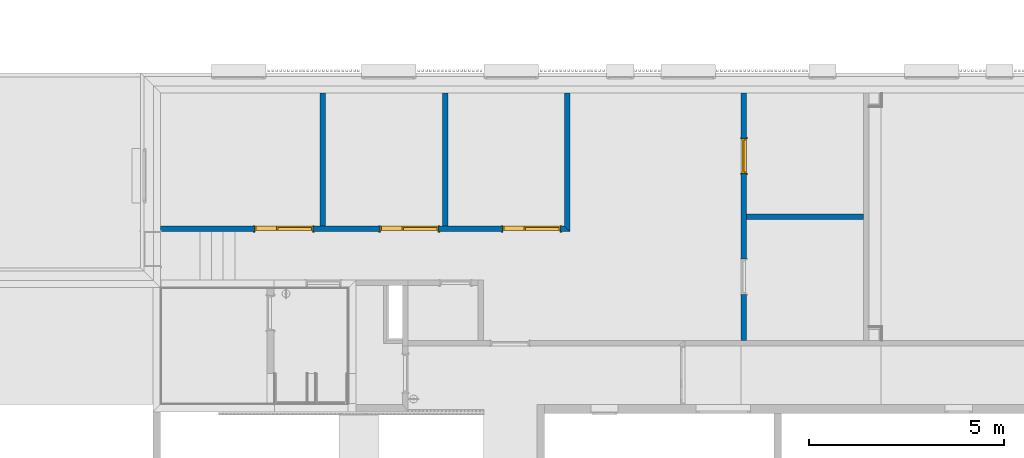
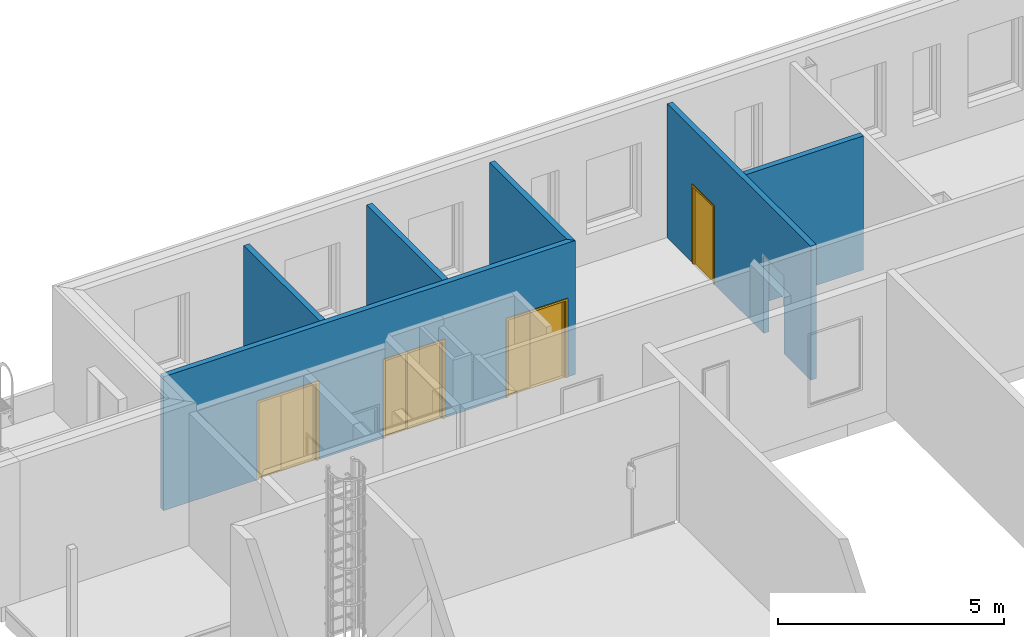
# One storey, part 5 of 100: 6 walls, 4 doors, 5 openings.
"""IFC2X3 building model written with IfcOpenShell, lengths in millimetres."""

import ifcopenshell
import ifcopenshell.guid

model = None  # the IFC model being written
_history = None  # IfcOwnerHistory: only IFC2X3 demands one
_inside = {}  # id of a spatial element -> (the spatial element, [elements in it])
_under = {}  # id of a project, library or spatial element -> (it, [spatial elements below it])
_declared = {}  # id of a project -> (the project, [libraries it declares])
_typed = {}  # id of a type object -> (the type object, [elements of that type])
_made_of = {}  # id of a material, layer set ... -> (it, [elements and type objects made of it])


def new_model(schema):
    """Start an empty IFC model of exactly this schema.

    Asked for "IFC4X3", IfcOpenShell would pick the latest addendum, in which some entities
    have other attributes; the version numbers below select the first issue.
    IFC2X3 requires an IfcOwnerHistory on every rooted entity: one is made here for all.
    """
    global model, _history
    if schema == "IFC4X3":
        model = ifcopenshell.file(schema_version=(4, 3, 0, 0))
    else:
        model = ifcopenshell.file(schema=schema)
    _inside.clear()
    _under.clear()
    _declared.clear()
    _typed.clear()
    _made_of.clear()
    _history = None
    if model.schema == "IFC2X3":
        org = make("IfcOrganization", Name="unknown")
        user = make(
            "IfcPersonAndOrganization",
            ThePerson=make("IfcPerson", FamilyName="unknown"),
            TheOrganization=org,
        )
        app = make(
            "IfcApplication",
            ApplicationDeveloper=org,
            Version="unknown",
            ApplicationFullName="unknown",
            ApplicationIdentifier="unknown",
        )
        _history = make(
            "IfcOwnerHistory",
            OwningUser=user,
            OwningApplication=app,
            ChangeAction="ADDED",
            CreationDate=0,
        )
    return model


def make(cls, **values):
    """One entity of the class cls with the attributes given. An attribute that is None is left unset."""
    return model.create_entity(
        cls, **{name: value for name, value in values.items() if value is not None}
    )


def entity(cls, *values):
    """Any entity or typed value of the class cls, its attributes in the order of the schema. None: left unset."""
    e = model.create_entity(cls)
    for i, value in enumerate(values):
        if value is not None:
            e[i] = value
    return e


def rooted(cls, **values):
    """An entity with a GlobalId (a new one), such as an element, a storey or a relation."""
    return make(cls, GlobalId=ifcopenshell.guid.new(), OwnerHistory=_history, **values)


def si_unit(unit_type, name, prefix=None):
    """IfcSIUnit, for example si_unit("LENGTHUNIT", "METRE", prefix="MILLI")."""
    return make("IfcSIUnit", UnitType=unit_type, Prefix=prefix, Name=name)


def converted_unit(unit_type, name, factor, base, dimensions=None, offset=None):
    """IfcConversionBasedUnit, such as the inch: factor (a typed value) times the base unit."""
    return make(
        "IfcConversionBasedUnit"
        if offset is None
        else "IfcConversionBasedUnitWithOffset",
        ConversionOffset=offset,
        Dimensions=None
        if dimensions is None
        else entity("IfcDimensionalExponents", *dimensions),
        UnitType=unit_type,
        Name=name,
        ConversionFactor=make(
            "IfcMeasureWithUnit", ValueComponent=factor, UnitComponent=base
        ),
    )


def derived_unit(unit_type, elements):
    """IfcDerivedUnit: a product of units, each with its exponent."""
    return make(
        "IfcDerivedUnit",
        Elements=[
            make("IfcDerivedUnitElement", Unit=unit, Exponent=power)
            for unit, power in elements
        ],
        UnitType=unit_type,
    )


def money_unit(currency):
    """IfcMonetaryUnit."""
    return make("IfcMonetaryUnit", Currency=currency)


def assignment(units):
    """IfcUnitAssignment: the units of a project."""
    return None if units is None else make("IfcUnitAssignment", Units=units)


def point(xyz):
    """IfcCartesianPoint."""
    return None if xyz is None else make("IfcCartesianPoint", Coordinates=xyz)


def direction(xyz):
    """IfcDirection."""
    return None if xyz is None else make("IfcDirection", DirectionRatios=xyz)


def frame(location, z_axis=None, x_axis=None):
    """IfcAxis2Placement3D, a coordinate frame: its origin and axes. An axis left out is left unset."""
    return make(
        "IfcAxis2Placement3D",
        Location=point(location),
        Axis=direction(z_axis),
        RefDirection=direction(x_axis),
    )


def frame_2d(location, x_axis=None):
    """IfcAxis2Placement2D, a coordinate frame in the plane: its origin and x axis."""
    return make(
        "IfcAxis2Placement2D", Location=point(location), RefDirection=direction(x_axis)
    )


def origin_with_axes():
    """The frame at (0, 0, 0) with the z axis (0, 0, 1) and the x axis (1, 0, 0) written out."""
    return frame((0.0, 0.0, 0.0), z_axis=(0.0, 0.0, 1.0), x_axis=(1.0, 0.0, 0.0))


def origin_2d_with_axis():
    """The frame at (0, 0) in the plane with the x axis (1, 0) written out."""
    return frame_2d((0.0, 0.0), x_axis=(1.0, 0.0))


def place(relative_to, where):
    """IfcLocalPlacement: puts the frame where relative to a parent placement (None: the world)."""
    return make(
        "IfcLocalPlacement", PlacementRelTo=relative_to, RelativePlacement=where
    )


def context(
    kind, dimensions, precision=None, world=None, true_north=None, identifier=None
):
    """IfcGeometricRepresentationContext, for example the 3D "Model" context."""
    return make(
        "IfcGeometricRepresentationContext",
        ContextIdentifier=identifier,
        ContextType=kind,
        CoordinateSpaceDimension=dimensions,
        Precision=precision,
        WorldCoordinateSystem=world,
        TrueNorth=true_north,
    )


def subcontext(parent, identifier, kind, view, scale=None):
    """IfcGeometricRepresentationSubContext, for example "Body" below "Model"."""
    return make(
        "IfcGeometricRepresentationSubContext",
        ContextIdentifier=identifier,
        ContextType=kind,
        ParentContext=parent,
        TargetScale=scale,
        TargetView=view,
    )


def project(units=None, contexts=None):
    """IfcProject with its units and contexts."""
    return rooted(
        "IfcProject",
        Name="project",
        RepresentationContexts=contexts,
        UnitsInContext=assignment(units),
    )


def spatial(cls, under=None, at=None, **own):
    """A site, building, storey or space (cls), placed at a placement, below another one or the project."""
    s = rooted(cls, ObjectPlacement=at, **own)
    if under is not None:
        _under.setdefault(under.id(), (under, []))[1].append(s)
    return s


def polyline(points):
    """IfcPolyline through the points."""
    return make("IfcPolyline", Points=[point(p) for p in points])


def profile(cls, at=None, kind="AREA", **sizes):
    """A parametric profile (cls). Its sizes go by their IFC names, for example OverallWidth=200.0."""
    return make(cls, ProfileType=kind, Position=at, **sizes)


def rectangle(**sizes):
    """IfcRectangleProfileDef."""
    return profile("IfcRectangleProfileDef", **sizes)


def outline(outer, holes=None, kind="AREA"):
    """IfcArbitraryClosedProfileDef: a profile drawn as a closed curve; with holes, ...WithVoids."""
    if holes is None:
        return make("IfcArbitraryClosedProfileDef", ProfileType=kind, OuterCurve=outer)
    return make(
        "IfcArbitraryProfileDefWithVoids",
        ProfileType=kind,
        OuterCurve=outer,
        InnerCurves=holes,
    )


def extrude(swept, where, along, depth):
    """IfcExtrudedAreaSolid: the profile swept, set in the frame where, extruded along a direction by depth."""
    return make(
        "IfcExtrudedAreaSolid",
        SweptArea=swept,
        Position=where,
        ExtrudedDirection=direction(along),
        Depth=depth,
    )


def faces_of(points, faces, orient=None, outer=None):
    """IfcFace entities. A face is a list of loops; a loop is a list of indices into points, from 0.

    orient and outer hold one flag for each loop. By default every Orientation is true, the
    first loop of a face is its IfcFaceOuterBound and the others are IfcFaceBound.
    """
    made = []
    for i, loops in enumerate(faces):
        bounds = []
        for j, loop in enumerate(loops):
            is_outer = j == 0 if outer is None else outer[i][j]
            bounds.append(
                make(
                    "IfcFaceOuterBound" if is_outer else "IfcFaceBound",
                    Bound=make("IfcPolyLoop", Polygon=[points[k] for k in loop]),
                    Orientation=True if orient is None else orient[i][j],
                )
            )
        made.append(make("IfcFace", Bounds=bounds))
    return made


def open_shell(faces, orient=None, outer=None):
    """The faces of one IfcOpenShell. surface_model builds it on its shared points."""
    return ("IfcOpenShell", faces, orient, outer)


def faceted_brep(points, faces, orient=None, outer=None, voids=None):
    """IfcFacetedBrep: a solid bounded by flat faces; with voids (closed shells), ...WithVoids."""
    shared = [point(p) for p in points]
    hull = make("IfcClosedShell", CfsFaces=faces_of(shared, faces, orient, outer))
    if voids is None:
        return make("IfcFacetedBrep", Outer=hull)
    return make(
        "IfcFacetedBrepWithVoids",
        Outer=hull,
        Voids=[
            make(cls, CfsFaces=faces_of(shared, fs, o, b)) for cls, fs, o, b in voids
        ],
    )


def surface_model(cls, points, shells):
    """IfcFaceBasedSurfaceModel or IfcShellBasedSurfaceModel (cls): surfaces that need not close."""
    shared = [point(p) for p in points]
    made = [make(c, CfsFaces=faces_of(shared, fs, o, b)) for c, fs, o, b in shells]
    if cls == "IfcFaceBasedSurfaceModel":
        return make(cls, FbsmFaces=made)
    return make(cls, SbsmBoundary=made)


def shape(context_of_items, identifier, shape_type, items):
    """IfcShapeRepresentation: the items that make up one representation, for example the "Body"."""
    return make(
        "IfcShapeRepresentation",
        ContextOfItems=context_of_items,
        RepresentationIdentifier=identifier,
        RepresentationType=shape_type,
        Items=items,
    )


def source(mapping_origin, context_of_items, identifier, shape_type, items):
    """IfcRepresentationMap: a shape defined once, which mapped items show again and again."""
    return make(
        "IfcRepresentationMap",
        MappingOrigin=mapping_origin,
        MappedRepresentation=shape(context_of_items, identifier, shape_type, items),
    )


def transform(
    local_origin,
    x_axis=None,
    y_axis=None,
    z_axis=None,
    scale=None,
    scale2=None,
    scale3=None,
    uniform=True,
):
    """IfcCartesianTransformationOperator3D, or its non-uniform kind. x_axis, y_axis, z_axis: its Axis1, 2, 3."""
    if uniform:
        return make(
            "IfcCartesianTransformationOperator3D",
            Axis1=direction(x_axis),
            Axis2=direction(y_axis),
            LocalOrigin=point(local_origin),
            Scale=scale,
            Axis3=direction(z_axis),
        )
    return make(
        "IfcCartesianTransformationOperator3DnonUniform",
        Axis1=direction(x_axis),
        Axis2=direction(y_axis),
        LocalOrigin=point(local_origin),
        Scale=scale,
        Axis3=direction(z_axis),
        Scale2=scale2,
        Scale3=scale3,
    )


def mapped(mapping_source, mapping_target):
    """IfcMappedItem: shows the shape of a source again, moved by a transform."""
    return make(
        "IfcMappedItem", MappingSource=mapping_source, MappingTarget=mapping_target
    )


def material(Name=None, Category=None):
    """IfcMaterial."""
    return make("IfcMaterial", Name=Name, Category=Category)


def layer(
    of_material, thickness, ventilated=None, Name=None, Category=None, Priority=None
):
    """IfcMaterialLayer: one layer of a wall or slab, of a material (None: an air gap)."""
    return make(
        "IfcMaterialLayer",
        Material=of_material,
        LayerThickness=thickness,
        IsVentilated=ventilated,
        Name=Name,
        Category=Category,
        Priority=Priority,
    )


def layer_set(layers, Name=None):
    """IfcMaterialLayerSet."""
    return make("IfcMaterialLayerSet", MaterialLayers=layers, LayerSetName=Name)


def layer_usage(for_layer_set, set_direction, sense, offset, extent=None):
    """IfcMaterialLayerSetUsage: how a layer set lies in its element."""
    return make(
        "IfcMaterialLayerSetUsage",
        ForLayerSet=for_layer_set,
        LayerSetDirection=set_direction,
        DirectionSense=sense,
        OffsetFromReferenceLine=offset,
        ReferenceExtent=extent,
    )


def made_of(thing, what):
    """Note that an element or type object is made of a material, layer set ...; save() writes the relation."""
    if what is not None:
        _made_of.setdefault(what.id(), (what, []))[1].append(thing)
    return thing


def type_object(cls, material=None, **own):
    """A type object (cls), such as IfcWallType, which elements share."""
    return made_of(rooted(cls, **own), material)


def element(
    cls,
    number,
    at=None,
    inside=None,
    cuts=None,
    type_object=None,
    material=None,
    context=None,
    identifier="Body",
    shape_type=None,
    held_by="IfcProductDefinitionShape",
    body=None,
    shapes=None,
    **own,
):
    """One element of the class cls, such as IfcWall. Its Tag is "e" and its number.

    at: its placement. inside: the storey or other place that contains it. cuts: it is an
    opening in that element (IfcRelVoidsElement). A single representation is given by context,
    identifier, shape_type and body (its items); several are given by shapes. held_by: the class
    of the entity that holds the representations. save() writes the other relations.
    """
    e = rooted(cls, Tag="e%d" % number, ObjectPlacement=at, **own)
    if body is not None:
        shapes = [shape(context, identifier, shape_type, body)]
    if shapes is not None:
        e.Representation = make(held_by, Representations=shapes)
    if inside is not None:
        _inside.setdefault(inside.id(), (inside, []))[1].append(e)
    if cuts is not None:
        rooted(
            "IfcRelVoidsElement", RelatingBuildingElement=cuts, RelatedOpeningElement=e
        )
    if type_object is not None:
        _typed.setdefault(type_object.id(), (type_object, []))[1].append(e)
    return made_of(e, material)


def fill(opening, filler):
    """IfcRelFillsElement: the door or window that sits in an opening."""
    return rooted(
        "IfcRelFillsElement",
        RelatingOpeningElement=opening,
        RelatedBuildingElement=filler,
    )


def aggregate(whole, parts):
    """IfcRelAggregates: a whole, such as a stair, and the parts it consists of."""
    return rooted("IfcRelAggregates", RelatingObject=whole, RelatedObjects=parts)


def save(model, path):
    """Write the relations noted so far, then the file.

    IfcRelAggregates (storeys below a building ...), IfcRelContainedInSpatialStructure (elements
    in a storey), IfcRelDefinesByType, IfcRelAssociatesMaterial and IfcRelDeclares: one each for
    every whole, place, type object, material and project.
    """
    for whole, parts in _under.values():
        aggregate(whole, parts)
    for where, things in _inside.values():
        rooted(
            "IfcRelContainedInSpatialStructure",
            RelatedElements=things,
            RelatingStructure=where,
        )
    for kind, things in _typed.values():
        rooted("IfcRelDefinesByType", RelatedObjects=things, RelatingType=kind)
    for what, things in _made_of.values():
        rooted("IfcRelAssociatesMaterial", RelatedObjects=things, RelatingMaterial=what)
    for by, libraries in _declared.values():
        rooted("IfcRelDeclares", RelatingContext=by, RelatedDefinitions=libraries)
    model.write(path)


model = new_model("IFC2X3")

# Units and contexts
model_context = context("Model", 3, precision=0.01, world=origin_with_axes(), true_north=direction((0.0, 1.0)))
body_context = subcontext(model_context, "Body", "Model", "MODEL_VIEW")
ifc_project = project(units=[si_unit("LENGTHUNIT", "METRE", prefix="MILLI"), si_unit("AREAUNIT", "SQUARE_METRE"), si_unit("VOLUMEUNIT", "CUBIC_METRE"), converted_unit("PLANEANGLEUNIT", "DEGREE", entity("IfcPlaneAngleMeasure", 0.0174532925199), si_unit("PLANEANGLEUNIT", "RADIAN"), dimensions=[0, 0, 0, 0, 0, 0, 0]), si_unit("SOLIDANGLEUNIT", "STERADIAN"), money_unit("EUR"), converted_unit("TIMEUNIT", "Year", entity("IfcTimeMeasure", 31556926.0), si_unit("TIMEUNIT", "SECOND"), dimensions=[0, 0, 1, 0, 0, 0, 0]), si_unit("MASSUNIT", "GRAM", prefix="KILO"), si_unit("THERMODYNAMICTEMPERATUREUNIT", "DEGREE_CELSIUS"), si_unit("LUMINOUSINTENSITYUNIT", "LUMEN"), si_unit("ENERGYUNIT", "JOULE", prefix="MEGA"), derived_unit("THERMALCONDUCTANCEUNIT", [(si_unit("POWERUNIT", "WATT"), 1), (si_unit("LENGTHUNIT", "METRE"), -1), (si_unit("THERMODYNAMICTEMPERATUREUNIT", "KELVIN"), -1)]), derived_unit("SPECIFICHEATCAPACITYUNIT", [(si_unit("ENERGYUNIT", "JOULE"), 1), (si_unit("MASSUNIT", "GRAM", prefix="KILO"), -1), (si_unit("THERMODYNAMICTEMPERATUREUNIT", "KELVIN"), -1)]), derived_unit("MASSDENSITYUNIT", [(si_unit("MASSUNIT", "GRAM", prefix="KILO"), 1), (si_unit("VOLUMEUNIT", "CUBIC_METRE"), -1)])], contexts=[model_context])

# Site, building, storey
site_placement = place(None, origin_with_axes())
site = spatial("IfcSite", under=ifc_project, at=site_placement, Name="Politse- ja Piirivalveameti ning Päästeameti ühishoone", CompositionType="ELEMENT")
building_placement = place(site_placement, origin_with_axes())
building = spatial("IfcBuilding", under=site, at=building_placement, Name="Politse- ja Piirivalveameti ning Päästeameti ühishoone", CompositionType="ELEMENT")
storey_placement = place(building_placement, frame((0.0, 0.0, 3800.0), z_axis=(0.0, 0.0, 1.0), x_axis=(1.0, 0.0, 0.0)))
storey = spatial("IfcBuildingStorey", under=building, at=storey_placement, Name="Teine korrus", CompositionType="ELEMENT", Elevation=3800.0)

# Walls
ifc_material = material(Name="KON-05_Betoon Plokk - Konstuktsioon")
ifc_layer = layer(ifc_material, 140.0, ventilated="UNKNOWN")
ifc_layer_set = layer_set([ifc_layer], Name="SS-02_Sisesein 140")
ifc_layer_usage_1 = layer_usage(ifc_layer_set, "AXIS2", "NEGATIVE", 0.0)
wall_type = type_object("IfcWallType", Name="SS-02_Sisesein 140 140", PredefinedType="NOTDEFINED")
wall_1_placement = place(storey_placement, frame((27419.6423616, 20999.9524789, 0.0), z_axis=(0.0, 0.0, 1.0), x_axis=(0.0, -1.0, 0.0)))
element("IfcWallStandardCase", 1, at=wall_1_placement, inside=storey, type_object=wall_type, material=ifc_layer_usage_1, Name="SS-02", context=body_context, shape_type="SweptSolid", body=[
    extrude(outline(polyline([(-2.78368972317e-06, -140.0), (3419.92803441, -140.0), (3559.92803441, 0.0), (-8.15770562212e-06, 0.0), (-2.78368972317e-06, -140.0)])), origin_with_axes(), (0.0, 0.0, 1.0), 3620.0),
])
ifc_layer_usage_2 = layer_usage(ifc_layer_set, "AXIS2", "POSITIVE", 0.0)
wall_2_placement = place(storey_placement, frame((20999.9238124, 20999.9522311, 0.0), z_axis=(0.0, 0.0, 1.0), x_axis=(0.0, -1.0, 0.0)))
element("IfcWallStandardCase", 2, at=wall_2_placement, inside=storey, type_object=wall_type, material=ifc_layer_usage_2, Name="SS-02", context=body_context, shape_type="SweptSolid", body=[
    extrude(outline(polyline([(-9.50311829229e-06, 0.0), (3419.92778664, 0.0), (3419.92778664, 140.0), (-1.48771270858e-05, 140.0), (-9.50311829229e-06, 0.0)])), origin_with_axes(), (0.0, 0.0, 1.0), 3575.0),
])
ifc_layer_usage_3 = layer_usage(ifc_layer_set, "AXIS2", "POSITIVE", 0.0)
wall_3_placement = place(storey_placement, frame((24139.6423616, 20999.9523718, 0.0), z_axis=(0.0, 0.0, 1.0), x_axis=(0.0, -1.0, 0.0)))
element("IfcWallStandardCase", 3, at=wall_3_placement, inside=storey, type_object=wall_type, material=ifc_layer_usage_3, Name="SS-02", context=body_context, shape_type="SweptSolid", body=[
    extrude(outline(polyline([(1.06572102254e-05, 0.0), (3419.92792732, 0.0), (3419.92792732, 140.0), (5.28320143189e-06, 140.0), (1.06572102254e-05, 0.0)])), origin_with_axes(), (0.0, 0.0, 1.0), 3575.0),
])

# Wall, openings, doors
ifc_layer_usage_4 = layer_usage(ifc_layer_set, "AXIS2", "POSITIVE", 0.0)
wall_4_placement = place(storey_placement, frame((16900.2058065, 17440.0244444, 0.0), z_axis=(0.0, 0.0, 1.0), x_axis=(1.0, 0.0, 0.0)))
wall_4 = element("IfcWallStandardCase", 4, at=wall_4_placement, inside=storey, type_object=wall_type, material=ifc_layer_usage_4, Name="SS-02", context=body_context, shape_type="SweptSolid", body=[
    extrude(outline(polyline([(-0.0040000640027, 0.0), (10519.436555, 0.0), (10379.436555, 140.0), (-0.00960015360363, 140.0), (-0.0040000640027, 0.0)])), origin_with_axes(), (0.0, 0.0, 1.0), 3620.0),
])
opening_1_placement = place(wall_4_placement, frame((9529.77600472, 0.0, 0.0), z_axis=(0.0, 0.0, 1.0), x_axis=(1.0, 0.0, 0.0)))
opening_1 = element("IfcOpeningElement", 5, at=opening_1_placement, cuts=wall_4, Name="SU-02-5", context=body_context, shape_type="SweptSolid", body=[
    extrude(rectangle(XDim=1500.0, YDim=2100.0, at=origin_2d_with_axis()), frame((0.0, -140.0, 1050.0), z_axis=(0.0, 1.0, 0.0), x_axis=(1.0, 0.0, 0.0)), (0.0, 0.0, 1.0), 420.0),
    extrude(rectangle(XDim=1574.0, YDim=2137.0, at=origin_2d_with_axis()), frame((0.0, 0.0, 1068.5), z_axis=(0.0, 1.0, 0.0), x_axis=(1.0, 0.0, 0.0)), (0.0, 0.0, -1.0), 140.0),
    extrude(rectangle(XDim=1574.0, YDim=2137.0, at=origin_2d_with_axis()), frame((0.0, 140.0, 1068.5), z_axis=(0.0, -1.0, 0.0), x_axis=(1.0, 0.0, 0.0)), (0.0, 0.0, -1.0), 140.0),
])
opening_2_placement = place(wall_4_placement, frame((6389.43655502, 0.0, 0.0), z_axis=(0.0, 0.0, 1.0), x_axis=(1.0, 0.0, 0.0)))
opening_2 = element("IfcOpeningElement", 6, at=opening_2_placement, cuts=wall_4, Name="SU-02-5", context=body_context, shape_type="SweptSolid", body=[
    extrude(rectangle(XDim=1500.0, YDim=2100.0, at=origin_2d_with_axis()), frame((0.0, -140.0, 1050.0), z_axis=(0.0, 1.0, 0.0), x_axis=(1.0, 0.0, 0.0)), (0.0, 0.0, 1.0), 420.0),
    extrude(rectangle(XDim=1574.0, YDim=2137.0, at=origin_2d_with_axis()), frame((0.0, 0.0, 1068.5), z_axis=(0.0, 1.0, 0.0), x_axis=(1.0, 0.0, 0.0)), (0.0, 0.0, -1.0), 140.0),
    extrude(rectangle(XDim=1574.0, YDim=2137.0, at=origin_2d_with_axis()), frame((0.0, 140.0, 1068.5), z_axis=(0.0, -1.0, 0.0), x_axis=(1.0, 0.0, 0.0)), (0.0, 0.0, -1.0), 140.0),
])
opening_3_placement = place(wall_4_placement, frame((3164.71800587, 0.0, 0.0), z_axis=(0.0, 0.0, 1.0), x_axis=(1.0, 0.0, 0.0)))
opening_3 = element("IfcOpeningElement", 7, at=opening_3_placement, cuts=wall_4, Name="SU-02-5", context=body_context, shape_type="SweptSolid", body=[
    extrude(rectangle(XDim=1500.0, YDim=2100.0, at=origin_2d_with_axis()), frame((0.0, -140.0, 1050.0), z_axis=(0.0, 1.0, 0.0), x_axis=(1.0, 0.0, 0.0)), (0.0, 0.0, 1.0), 420.0),
    extrude(rectangle(XDim=1574.0, YDim=2137.0, at=origin_2d_with_axis()), frame((0.0, 0.0, 1068.5), z_axis=(0.0, 1.0, 0.0), x_axis=(1.0, 0.0, 0.0)), (0.0, 0.0, -1.0), 140.0),
    extrude(rectangle(XDim=1574.0, YDim=2137.0, at=origin_2d_with_axis()), frame((0.0, 140.0, 1068.5), z_axis=(0.0, -1.0, 0.0), x_axis=(1.0, 0.0, 0.0)), (0.0, 0.0, -1.0), 140.0),
])
door_style_1 = type_object("IfcDoorStyle", Name="Door with Sidelight on Side 2 23", ConstructionType="NOTDEFINED", OperationType="NOTDEFINED", ParameterTakesPrecedence=False, Sizeable=False)
shared_shape_1 = source(origin_with_axes(), body_context, "Body", "SurfaceModel", [
    faceted_brep([(722.0, -40.0, 0.0), (722.0, -40.0, 12.0), (710.0, -40.0, 12.0), (710.0, -40.0, 0.0), (-162.0, -40.0, 0.0), (-162.0, -40.0, 12.0), (-150.0, -40.0, 12.0), (-150.0, -115.0, 12.0), (710.0, -115.0, 12.0), (710.0, -115.0, 0.0), (-150.0, -115.0, 0.0), (-150.0, -40.0, 0.0)], [[[0, 1, 2, 3]], [[4, 5, 1, 0]], [[1, 5, 6, 7, 8, 2]], [[3, 2, 8, 9]], [[0, 3, 9, 10, 11, 4]], [[11, 6, 5, 4]], [[10, 7, 6, 11]], [[9, 8, 7, 10]]]),
    faceted_brep([(-750.0, -115.0, 0.0), (-725.0, -115.0, 0.0), (-725.0, -140.0, 0.0), (-750.0, -140.0, 0.0), (-750.0, -115.0, 2100.0), (-725.0, -115.0, 2075.0), (-725.0, -140.0, 2075.0), (-750.0, -140.0, 2100.0)], [[[0, 1, 2, 3]], [[0, 4, 5, 1]], [[1, 5, 6, 2]], [[3, 2, 6, 7]], [[4, 0, 3, 7]], [[5, 4, 7, 6]]]),
    faceted_brep([(750.0, -115.0, 2100.0), (725.0, -115.0, 2075.0), (725.0, -140.0, 2075.0), (750.0, -140.0, 2100.0), (750.0, -115.0, 0.0), (725.0, -115.0, 0.0), (725.0, -140.0, 0.0), (750.0, -140.0, 0.0)], [[[0, 1, 2, 3]], [[0, 4, 5, 1]], [[1, 5, 6, 2]], [[3, 2, 6, 7]], [[4, 0, 3, 7]], [[5, 4, 7, 6]]]),
    faceted_brep([(-725.0, -115.0, 2075.0), (725.0, -115.0, 2075.0), (725.0, -140.0, 2075.0), (-725.0, -140.0, 2075.0), (-750.0, -115.0, 2100.0), (750.0, -115.0, 2100.0), (750.0, -140.0, 2100.0), (-750.0, -140.0, 2100.0)], [[[0, 1, 2, 3]], [[0, 4, 5, 1]], [[1, 5, 6, 2]], [[3, 2, 6, 7]], [[4, 0, 3, 7]], [[5, 4, 7, 6]]]),
    faceted_brep([(-787.0, -159.0, 0.0), (-787.0, -140.0, 0.0), (-737.0, -140.0, 0.0), (-737.0, -159.0, 0.0), (-787.0, -159.0, 2137.0), (-787.0, -140.0, 2137.0), (-737.0, -140.0, 2087.0), (-737.0, -159.0, 2087.0)], [[[0, 1, 2, 3]], [[4, 5, 1, 0]], [[1, 5, 6, 2]], [[3, 2, 6, 7]], [[0, 3, 7, 4]], [[7, 6, 5, 4]]]),
    faceted_brep([(787.0, -159.0, 2137.0), (787.0, -140.0, 2137.0), (737.0, -140.0, 2087.0), (737.0, -159.0, 2087.0), (787.0, -159.0, 0.0), (787.0, -140.0, 0.0), (737.0, -140.0, 0.0), (737.0, -159.0, 0.0)], [[[0, 1, 2, 3]], [[4, 5, 1, 0]], [[1, 5, 6, 2]], [[3, 2, 6, 7]], [[0, 3, 7, 4]], [[7, 6, 5, 4]]]),
    faceted_brep([(-787.0, -159.0, 2137.0), (-787.0, -140.0, 2137.0), (-737.0, -140.0, 2087.0), (-737.0, -159.0, 2087.0), (787.0, -159.0, 2137.0), (787.0, -140.0, 2137.0), (737.0, -140.0, 2087.0), (737.0, -159.0, 2087.0)], [[[0, 1, 2, 3]], [[4, 5, 1, 0]], [[1, 5, 6, 2]], [[3, 2, 6, 7]], [[0, 3, 7, 4]], [[7, 6, 5, 4]]]),
    faceted_brep([(-787.0, 19.0, 0.0), (-737.0, 19.0, 0.0), (-737.0, 0.0, 0.0), (-787.0, 0.0, 0.0), (-787.0, 19.0, 2137.0), (-737.0, 19.0, 2087.0), (-737.0, 0.0, 2087.0), (-787.0, 0.0, 2137.0)], [[[0, 1, 2, 3]], [[0, 4, 5, 1]], [[1, 5, 6, 2]], [[3, 2, 6, 7]], [[4, 0, 3, 7]], [[5, 4, 7, 6]]]),
    faceted_brep([(787.0, 19.0, 2137.0), (737.0, 19.0, 2087.0), (737.0, 0.0, 2087.0), (787.0, 0.0, 2137.0), (787.0, 19.0, 0.0), (737.0, 19.0, 0.0), (737.0, 0.0, 0.0), (787.0, 0.0, 0.0)], [[[0, 1, 2, 3]], [[0, 4, 5, 1]], [[1, 5, 6, 2]], [[3, 2, 6, 7]], [[4, 0, 3, 7]], [[5, 4, 7, 6]]]),
    faceted_brep([(-787.0, 19.0, 2137.0), (-737.0, 19.0, 2087.0), (-737.0, 0.0, 2087.0), (-787.0, 0.0, 2137.0), (787.0, 19.0, 2137.0), (737.0, 19.0, 2087.0), (737.0, 0.0, 2087.0), (787.0, 0.0, 2137.0)], [[[0, 1, 2, 3]], [[0, 4, 5, 1]], [[1, 5, 6, 2]], [[3, 2, 6, 7]], [[4, 0, 3, 7]], [[5, 4, 7, 6]]]),
    faceted_brep([(-750.0, 0.0, 0.0), (-710.0, 0.0, 0.0), (-710.0, -115.0, 0.0), (-750.0, -115.0, 0.0), (-750.0, 0.0, 2060.0), (-710.0, 0.0, 2060.0), (-710.0, 0.0, 40.0), (-710.0, -115.0, 40.0), (-710.0, -115.0, 2060.0), (-750.0, -115.0, 2060.0)], [[[0, 1, 2, 3]], [[0, 4, 5, 6, 1]], [[1, 6, 7, 2]], [[3, 2, 7, 8, 9]], [[4, 0, 3, 9]], [[5, 4, 9, 8]], [[6, 5, 8, 7]]]),
    faceted_brep([(-150.0, -40.0, 0.0), (-150.0, -40.0, 2060.0), (-150.0, -115.0, 2060.0), (-150.0, -115.0, 0.0), (-162.0, -40.0, 2060.0), (-162.0, -40.0, 0.0), (-162.0, 0.0, 2060.0), (-190.0, 0.0, 2060.0), (-190.0, -115.0, 2060.0), (-190.0, -115.0, 0.0), (-190.0, -115.0, 40.0), (-190.0, 0.0, 0.0), (-162.0, 0.0, 0.0), (-190.0, 0.0, 40.0)], [[[0, 1, 2, 3]], [[4, 1, 0, 5]], [[4, 6, 7, 8, 2, 1]], [[9, 3, 2, 8, 10]], [[5, 0, 3, 9, 11, 12]], [[6, 4, 5, 12]], [[6, 12, 11, 13, 7]], [[13, 10, 8, 7]], [[11, 9, 10, 13]]]),
    faceted_brep([(-710.0, 0.0, 40.0), (-710.0, 0.0, 0.0), (-710.0, -115.0, 0.0), (-710.0, -115.0, 40.0), (-190.0, 0.0, 40.0), (-190.0, 0.0, 0.0), (-190.0, -115.0, 0.0), (-190.0, -115.0, 40.0)], [[[0, 1, 2, 3]], [[0, 4, 5, 1]], [[1, 5, 6, 2]], [[3, 2, 6, 7]], [[4, 0, 3, 7]], [[5, 4, 7, 6]]]),
    faceted_brep([(722.0, -40.0, 2060.0), (710.0, -40.0, 2060.0), (710.0, -115.0, 2060.0), (750.0, -115.0, 2060.0), (750.0, 0.0, 2060.0), (722.0, 0.0, 2060.0), (722.0, -40.0, 0.0), (710.0, -40.0, 0.0), (710.0, -115.0, 0.0), (750.0, -115.0, 0.0), (750.0, 0.0, 0.0), (722.0, 0.0, 0.0)], [[[0, 1, 2, 3, 4, 5]], [[1, 0, 6, 7]], [[1, 7, 8, 2]], [[3, 2, 8, 9]], [[4, 3, 9, 10]], [[11, 5, 4, 10]], [[0, 5, 11, 6]], [[6, 11, 10, 9, 8, 7]]]),
    faceted_brep([(-162.0, 0.0, 2072.0), (-162.0, 0.0, 2060.0), (-190.0, 0.0, 2060.0), (-710.0, 0.0, 2060.0), (-750.0, 0.0, 2060.0), (-750.0, 0.0, 2100.0), (750.0, 0.0, 2100.0), (750.0, 0.0, 2060.0), (722.0, 0.0, 2060.0), (722.0, 0.0, 2072.0), (-162.0, -40.0, 2072.0), (-162.0, -40.0, 2060.0), (710.0, -40.0, 2060.0), (710.0, -115.0, 2060.0), (-150.0, -115.0, 2060.0), (-190.0, -115.0, 2060.0), (-710.0, -115.0, 2060.0), (-750.0, -115.0, 2060.0), (-750.0, -115.0, 2100.0), (750.0, -115.0, 2100.0), (750.0, -115.0, 2060.0), (722.0, -40.0, 2060.0), (722.0, -40.0, 2072.0)], [[[0, 1, 2, 3, 4, 5, 6, 7, 8, 9]], [[1, 0, 10, 11]], [[11, 12, 13, 14, 15, 2, 1]], [[2, 15, 16, 3]], [[3, 16, 17, 4]], [[4, 17, 18, 5]], [[5, 18, 19, 6]], [[6, 19, 20, 7]], [[21, 8, 7, 20, 13, 12]], [[9, 8, 21, 22]], [[0, 9, 22, 10]], [[21, 12, 11, 10, 22]], [[13, 20, 19, 18, 17, 16, 15, 14]]]),
    faceted_brep([(722.0, 0.0, 0.0), (722.0, -40.0, 0.0), (-162.0, -40.0, 0.0), (-162.0, 0.0, 0.0), (722.0, 0.0, 2072.0), (722.0, -40.0, 2072.0), (-162.0, -40.0, 2072.0), (-162.0, 0.0, 2072.0)], [[[0, 1, 2, 3]], [[4, 5, 1, 0]], [[1, 5, 6, 2]], [[3, 2, 6, 7]], [[0, 3, 7, 4]], [[7, 6, 5, 4]]]),
    surface_model("IfcShellBasedSurfaceModel", [(-710.0, -91.0, 40.0), (-710.0, -91.0, 2060.0), (-190.0, -91.0, 2060.0), (-190.0, -91.0, 40.0)], [open_shell([[[0, 1, 2, 3]]])]),
    surface_model("IfcShellBasedSurfaceModel", [(-710.0, -103.0, 40.0), (-190.0, -103.0, 40.0), (-190.0, -103.0, 2060.0), (-710.0, -103.0, 2060.0)], [open_shell([[[0, 1, 2, 3]]])]),
])
door_1_placement = place(opening_1_placement, frame((-750.0, 0.0, 0.0), z_axis=(0.0, 0.0, 1.0), x_axis=(1.0, 0.0, 0.0)))
door_1 = element("IfcDoor", 8, at=door_1_placement, inside=storey, type_object=door_style_1, Name="SU-02-5", ObjectType="DOOR", OverallHeight=2100.0, OverallWidth=1500.0, context=body_context, shape_type="MappedRepresentation", body=[
    mapped(shared_shape_1, transform((750.0, 140.0, 0.0))),
])
fill(opening_1, door_1)
door_2_placement = place(opening_2_placement, frame((-750.0, 0.0, 0.0), z_axis=(0.0, 0.0, 1.0), x_axis=(1.0, 0.0, 0.0)))
door_2 = element("IfcDoor", 9, at=door_2_placement, inside=storey, type_object=door_style_1, Name="SU-02-5", ObjectType="DOOR", OverallHeight=2100.0, OverallWidth=1500.0, context=body_context, shape_type="MappedRepresentation", body=[
    mapped(shared_shape_1, transform((750.0, 140.0, 0.0))),
])
fill(opening_2, door_2)
door_3_placement = place(opening_3_placement, frame((-750.0, 0.0, 0.0), z_axis=(0.0, 0.0, 1.0), x_axis=(1.0, 0.0, 0.0)))
door_3 = element("IfcDoor", 10, at=door_3_placement, inside=storey, type_object=door_style_1, Name="SU-02-5", ObjectType="DOOR", OverallHeight=2100.0, OverallWidth=1500.0, context=body_context, shape_type="MappedRepresentation", body=[
    mapped(shared_shape_1, transform((750.0, 140.0, 0.0))),
])
fill(opening_3, door_3)

# Wall, openings, door
ifc_layer_usage_5 = layer_usage(ifc_layer_set, "AXIS2", "NEGATIVE", 0.0)
wall_5_placement = place(storey_placement, frame((31959.7100495, 20999.9525809, 0.0), z_axis=(0.0, 0.0, 1.0), x_axis=(0.0, -1.0, 0.0)))
wall_5 = element("IfcWallStandardCase", 11, at=wall_5_placement, inside=storey, type_object=wall_type, material=ifc_layer_usage_5, Name="SS-02", context=body_context, shape_type="SweptSolid", body=[
    extrude(outline(polyline([(-7.49983968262e-05, -140.0), (6359.91042811, -140.0), (6359.91042811, 0.0), (-8.03724056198e-05, 0.0), (-7.49983968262e-05, -140.0)])), origin_with_axes(), (0.0, 0.0, 1.0), 3620.0),
])
opening_4_placement = place(wall_5_placement, frame((1620.43760814, 0.0, 0.0), z_axis=(0.0, 0.0, 1.0), x_axis=(1.0, 0.0, 0.0)))
opening_4 = element("IfcOpeningElement", 12, at=opening_4_placement, cuts=wall_5, Name="SU-02-2", context=body_context, shape_type="SweptSolid", body=[
    extrude(rectangle(XDim=900.0, YDim=2100.0, at=origin_2d_with_axis()), frame((0.0, -140.0, 1050.0), z_axis=(0.0, 1.0, 0.0), x_axis=(-1.0, 0.0, 0.0)), (0.0, 0.0, 1.0), 420.0),
    extrude(rectangle(XDim=974.0, YDim=2137.0, at=origin_2d_with_axis()), frame((0.0, -140.0, 1068.5), z_axis=(0.0, 1.0, 0.0), x_axis=(-1.0, 0.0, 0.0)), (0.0, 0.0, -1.0), 140.0),
    extrude(rectangle(XDim=974.0, YDim=2137.0, at=origin_2d_with_axis()), frame((0.0, 0.0, 1068.5), z_axis=(0.0, -1.0, 0.0), x_axis=(-1.0, 0.0, 0.0)), (0.0, 0.0, -1.0), 140.0),
])
opening_5_placement = place(wall_5_placement, frame((4720.46114588, 0.0, 0.0), z_axis=(0.0, 0.0, 1.0), x_axis=(1.0, 0.0, 0.0)))
element("IfcOpeningElement", 13, at=opening_5_placement, cuts=wall_5, Name="SU-02-2", context=body_context, shape_type="SweptSolid", body=[
    extrude(rectangle(XDim=900.0, YDim=2100.0, at=origin_2d_with_axis()), frame((0.0, 140.0, 1050.0), z_axis=(0.0, -1.0, 0.0), x_axis=(-1.0, 0.0, 0.0)), (0.0, 0.0, 1.0), 420.0),
    extrude(rectangle(XDim=974.0, YDim=2137.0, at=origin_2d_with_axis()), frame((0.0, 0.0, 1068.5), z_axis=(0.0, -1.0, 0.0), x_axis=(-1.0, 0.0, 0.0)), (0.0, 0.0, -1.0), 140.0),
    extrude(rectangle(XDim=974.0, YDim=2137.0, at=origin_2d_with_axis()), frame((0.0, -140.0, 1068.5), z_axis=(0.0, 1.0, 0.0), x_axis=(-1.0, 0.0, 0.0)), (0.0, 0.0, -1.0), 140.0),
])
door_style_2 = type_object("IfcDoorStyle", Name="Door 23", ConstructionType="NOTDEFINED", OperationType="SINGLE_SWING_RIGHT", ParameterTakesPrecedence=False, Sizeable=False)
shared_shape_2 = source(origin_with_axes(), body_context, "Body", "Brep", [
    faceted_brep([(410.0, -115.0, 0.0), (410.0, -40.0, 0.0), (410.0, -40.0, 12.0), (410.0, -115.0, 12.0), (-410.0, -115.0, 0.0), (-410.0, -40.0, 0.0), (-422.0, -40.0, 0.0), (422.0, -40.0, 0.0), (422.0, -40.0, 12.0), (-422.0, -40.0, 12.0), (-410.0, -40.0, 12.0), (-410.0, -115.0, 12.0)], [[[0, 1, 2, 3]], [[0, 4, 5, 6, 7, 1]], [[1, 7, 8, 2]], [[3, 2, 8, 9, 10, 11]], [[4, 0, 3, 11]], [[5, 4, 11, 10]], [[6, 5, 10, 9]], [[7, 6, 9, 8]]]),
    faceted_brep([(-450.0, 0.0, 0.0), (-450.0, 25.0, 0.0), (-425.0, 25.0, 0.0), (-425.0, 0.0, 0.0), (-450.0, 0.0, 2100.0), (-450.0, 25.0, 2100.0), (-425.0, 25.0, 2075.0), (-425.0, 0.0, 2075.0)], [[[0, 1, 2, 3]], [[4, 5, 1, 0]], [[1, 5, 6, 2]], [[3, 2, 6, 7]], [[0, 3, 7, 4]], [[7, 6, 5, 4]]]),
    faceted_brep([(450.0, 0.0, 2100.0), (450.0, 25.0, 2100.0), (425.0, 25.0, 2075.0), (425.0, 0.0, 2075.0), (450.0, 0.0, 0.0), (450.0, 25.0, 0.0), (425.0, 25.0, 0.0), (425.0, 0.0, 0.0)], [[[0, 1, 2, 3]], [[4, 5, 1, 0]], [[1, 5, 6, 2]], [[3, 2, 6, 7]], [[0, 3, 7, 4]], [[7, 6, 5, 4]]]),
    faceted_brep([(-425.0, 0.0, 2075.0), (-425.0, 25.0, 2075.0), (425.0, 25.0, 2075.0), (425.0, 0.0, 2075.0), (-450.0, 0.0, 2100.0), (-450.0, 25.0, 2100.0), (450.0, 25.0, 2100.0), (450.0, 0.0, 2100.0)], [[[0, 1, 2, 3]], [[4, 5, 1, 0]], [[1, 5, 6, 2]], [[3, 2, 6, 7]], [[0, 3, 7, 4]], [[7, 6, 5, 4]]]),
    faceted_brep([(-487.0, 44.0, 0.0), (-437.0, 44.0, 0.0), (-437.0, 25.0, 0.0), (-487.0, 25.0, 0.0), (-487.0, 44.0, 2137.0), (-437.0, 44.0, 2087.0), (-437.0, 25.0, 2087.0), (-487.0, 25.0, 2137.0)], [[[0, 1, 2, 3]], [[0, 4, 5, 1]], [[1, 5, 6, 2]], [[3, 2, 6, 7]], [[4, 0, 3, 7]], [[5, 4, 7, 6]]]),
    faceted_brep([(487.0, 44.0, 2137.0), (437.0, 44.0, 2087.0), (437.0, 25.0, 2087.0), (487.0, 25.0, 2137.0), (487.0, 44.0, 0.0), (437.0, 44.0, 0.0), (437.0, 25.0, 0.0), (487.0, 25.0, 0.0)], [[[0, 1, 2, 3]], [[0, 4, 5, 1]], [[1, 5, 6, 2]], [[3, 2, 6, 7]], [[4, 0, 3, 7]], [[5, 4, 7, 6]]]),
    faceted_brep([(-487.0, 44.0, 2137.0), (-437.0, 44.0, 2087.0), (-437.0, 25.0, 2087.0), (-487.0, 25.0, 2137.0), (487.0, 44.0, 2137.0), (437.0, 44.0, 2087.0), (437.0, 25.0, 2087.0), (487.0, 25.0, 2137.0)], [[[0, 1, 2, 3]], [[0, 4, 5, 1]], [[1, 5, 6, 2]], [[3, 2, 6, 7]], [[4, 0, 3, 7]], [[5, 4, 7, 6]]]),
    faceted_brep([(-487.0, -134.0, 0.0), (-487.0, -115.0, 0.0), (-437.0, -115.0, 0.0), (-437.0, -134.0, 0.0), (-487.0, -134.0, 2137.0), (-487.0, -115.0, 2137.0), (-437.0, -115.0, 2087.0), (-437.0, -134.0, 2087.0)], [[[0, 1, 2, 3]], [[4, 5, 1, 0]], [[1, 5, 6, 2]], [[3, 2, 6, 7]], [[0, 3, 7, 4]], [[7, 6, 5, 4]]]),
    faceted_brep([(487.0, -134.0, 2137.0), (487.0, -115.0, 2137.0), (437.0, -115.0, 2087.0), (437.0, -134.0, 2087.0), (487.0, -134.0, 0.0), (487.0, -115.0, 0.0), (437.0, -115.0, 0.0), (437.0, -134.0, 0.0)], [[[0, 1, 2, 3]], [[4, 5, 1, 0]], [[1, 5, 6, 2]], [[3, 2, 6, 7]], [[0, 3, 7, 4]], [[7, 6, 5, 4]]]),
    faceted_brep([(-487.0, -134.0, 2137.0), (-487.0, -115.0, 2137.0), (-437.0, -115.0, 2087.0), (-437.0, -134.0, 2087.0), (487.0, -134.0, 2137.0), (487.0, -115.0, 2137.0), (437.0, -115.0, 2087.0), (437.0, -134.0, 2087.0)], [[[0, 1, 2, 3]], [[4, 5, 1, 0]], [[1, 5, 6, 2]], [[3, 2, 6, 7]], [[0, 3, 7, 4]], [[7, 6, 5, 4]]]),
    faceted_brep([(-410.0, -40.0, 0.0), (-410.0, -40.0, 2060.0), (-410.0, -115.0, 2060.0), (-410.0, -115.0, 0.0), (-422.0, -40.0, 2060.0), (-422.0, -40.0, 0.0), (-422.0, 0.0, 2060.0), (-450.0, 0.0, 2060.0), (-450.0, -115.0, 2060.0), (-450.0, -115.0, 0.0), (-450.0, 0.0, 0.0), (-422.0, 0.0, 0.0)], [[[0, 1, 2, 3]], [[4, 1, 0, 5]], [[4, 6, 7, 8, 2, 1]], [[3, 2, 8, 9]], [[5, 0, 3, 9, 10, 11]], [[6, 4, 5, 11]], [[6, 11, 10, 7]], [[10, 9, 8, 7]]]),
    faceted_brep([(422.0, -40.0, 2060.0), (410.0, -40.0, 2060.0), (410.0, -115.0, 2060.0), (450.0, -115.0, 2060.0), (450.0, 0.0, 2060.0), (422.0, 0.0, 2060.0), (422.0, -40.0, 0.0), (410.0, -40.0, 0.0), (410.0, -115.0, 0.0), (450.0, -115.0, 0.0), (450.0, 0.0, 0.0), (422.0, 0.0, 0.0)], [[[0, 1, 2, 3, 4, 5]], [[1, 0, 6, 7]], [[1, 7, 8, 2]], [[3, 2, 8, 9]], [[4, 3, 9, 10]], [[11, 5, 4, 10]], [[0, 5, 11, 6]], [[6, 11, 10, 9, 8, 7]]]),
    faceted_brep([(-422.0, 0.0, 2072.0), (-422.0, 0.0, 2060.0), (-450.0, 0.0, 2060.0), (-450.0, 0.0, 2100.0), (450.0, 0.0, 2100.0), (450.0, 0.0, 2060.0), (422.0, 0.0, 2060.0), (422.0, 0.0, 2072.0), (-422.0, -40.0, 2072.0), (-422.0, -40.0, 2060.0), (-410.0, -40.0, 2060.0), (-410.0, -115.0, 2060.0), (-450.0, -115.0, 2060.0), (-450.0, -115.0, 2100.0), (450.0, -115.0, 2100.0), (450.0, -115.0, 2060.0), (422.0, -40.0, 2060.0), (410.0, -115.0, 2060.0), (410.0, -40.0, 2060.0), (422.0, -40.0, 2072.0)], [[[0, 1, 2, 3, 4, 5, 6, 7]], [[1, 0, 8, 9]], [[9, 10, 11, 12, 2, 1]], [[2, 12, 13, 3]], [[3, 13, 14, 4]], [[4, 14, 15, 5]], [[16, 6, 5, 15, 17, 18]], [[7, 6, 16, 19]], [[0, 7, 19, 8]], [[16, 18, 10, 9, 8, 19]], [[10, 18, 17, 11]], [[17, 15, 14, 13, 12, 11]]]),
    faceted_brep([(422.0, 0.0, 0.0), (422.0, -40.0, 0.0), (-422.0, -40.0, 0.0), (-422.0, 0.0, 0.0), (422.0, 0.0, 2072.0), (422.0, -40.0, 2072.0), (-422.0, -40.0, 2072.0), (-422.0, 0.0, 2072.0)], [[[0, 1, 2, 3]], [[4, 5, 1, 0]], [[1, 5, 6, 2]], [[3, 2, 6, 7]], [[0, 3, 7, 4]], [[7, 6, 5, 4]]]),
])
door_4_placement = place(opening_4_placement, frame((450.0, 0.0, 0.0), z_axis=(0.0, 0.0, 1.0), x_axis=(-1.0, 0.0, 0.0)))
door_4 = element("IfcDoor", 14, at=door_4_placement, inside=storey, type_object=door_style_2, Name="SU-02-2", ObjectType="DOOR", OverallHeight=2100.0, OverallWidth=900.0, context=body_context, shape_type="MappedRepresentation", body=[
    mapped(shared_shape_2, transform((450.0, 115.0, 0.0))),
])
fill(opening_4, door_4)

# Wall
ifc_layer_usage_6 = layer_usage(ifc_layer_set, "AXIS2", "POSITIVE", -70.0)
wall_6_placement = place(storey_placement, frame((31959.7100495, 17819.9974324, 0.0), z_axis=(0.0, 0.0, 1.0), x_axis=(1.0, 0.0, 0.0)))
element("IfcWallStandardCase", 15, at=wall_6_placement, inside=storey, type_object=wall_type, material=ifc_layer_usage_6, Name="SS-02", context=body_context, shape_type="SweptSolid", body=[
    extrude(outline(polyline([(0.0, -70.0), (3000.0, -70.0), (3000.0, 70.0), (0.0, 70.0), (0.0, -70.0)])), origin_with_axes(), (0.0, 0.0, 1.0), 3620.0),
])

save(model, "model.ifc")
